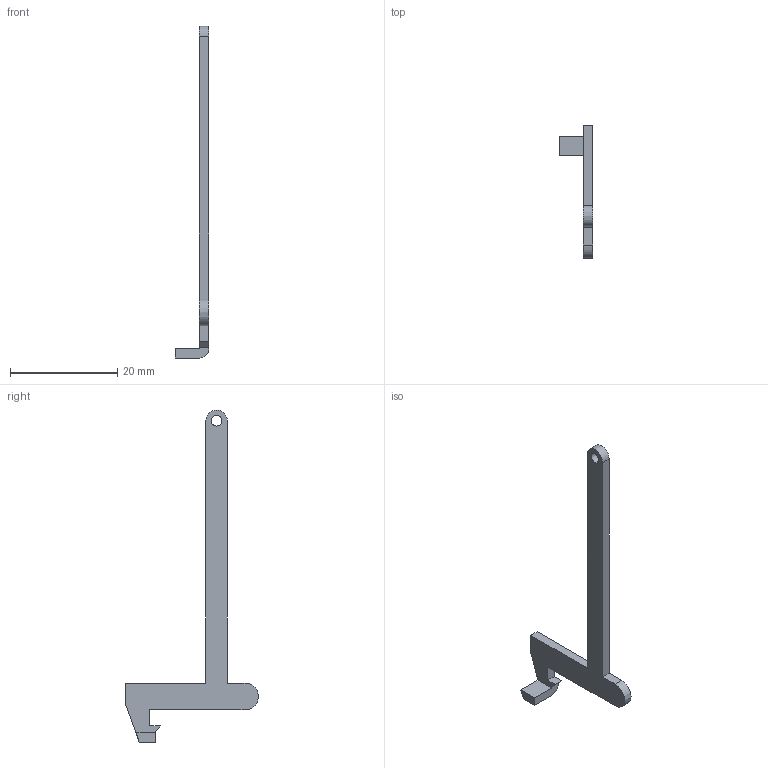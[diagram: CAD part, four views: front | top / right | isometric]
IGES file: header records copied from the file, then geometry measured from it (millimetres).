
Start section:  PTC IGES file: C:\Documents and Settings\audibk\personal\guns\walther\W alther_PPK\iges\gestaenge01.igs
Global section: file name: C:\Documents and Settings\audibk\personal\guns\walther\Walther_PPK\iges\gestaenge01.igs; native system: Pro/ENGINEER by Parametric Technology Corporation; preprocessor: 2002180; author: audibk; organization: Unknown; date: 030409.105322; units: millimetre
Bounding box: 6.2 x 24.8 x 62 mm (x, y, z)
Volume: 605.8 mm3; surface area: 1028 mm2
Topology: 1 solids, 1 shells, 21 faces, 57 edges, 38 vertices
Faces by surface type: bspline 21
